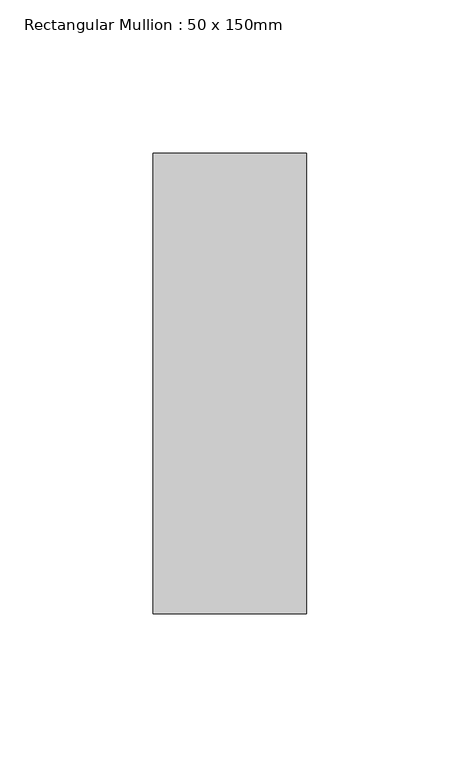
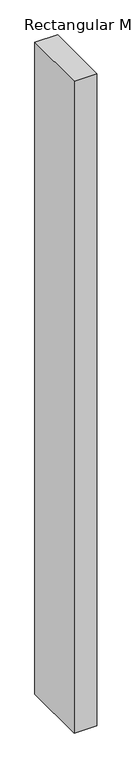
"""IFC4 building model written with IfcOpenShell, lengths in millimetres: member geometry, Rectangular Mullion : 50 x 150mm."""

from ifc_helpers import new_model, si_unit, frame, origin, place, context, project, spatial, polyline, outline, extrude, source, transform, mapped, element, save


def rectangular_mullion_50_x_150mm_da1b811e(model_context):
    return source(origin(), model_context, "Body", "SweptSolid", [
        extrude(outline(polyline([(0.0, 75.0), (0.0, -75.0), (-50.0, -75.0), (-50.0, 75.0), (0.0, 75.0)])), frame((0.0, 0.0, -1523.5), z_axis=(0.0, 0.0, 1.0), x_axis=(1.0, 0.0, 0.0)), (0.0, 0.0, 1.0), 1523.5),
    ])


if __name__ == "__main__":
    model = new_model("IFC4")
    model_context = context("Model", 3, world=origin())
    ifc_project = project(units=[si_unit("LENGTHUNIT", "METRE", prefix="MILLI")], contexts=[model_context])
    site = spatial("IfcSite", under=ifc_project)
    building = spatial("IfcBuilding", under=site)
    placement = place(None, origin())
    rectangular_mullion_50_x_150mm_shape = rectangular_mullion_50_x_150mm_da1b811e(model_context)
    element("IfcMember", 1, ObjectType="Rectangular Mullion : 50 x 150mm", at=placement, inside=building, context=model_context, shape_type="MappedRepresentation", body=[
        mapped(rectangular_mullion_50_x_150mm_shape, transform((0.0, 0.0, 0.0), x_axis=(1.0, 0.0, 0.0), y_axis=(0.0, 1.0, 0.0), z_axis=(0.0, 0.0, 1.0))),
    ])
    save(model, "model.ifc")
